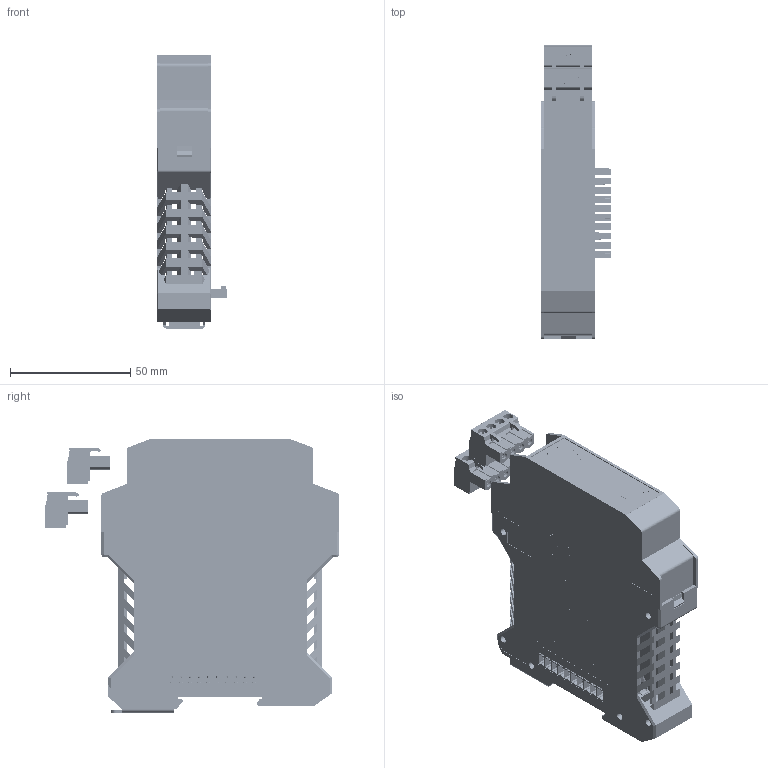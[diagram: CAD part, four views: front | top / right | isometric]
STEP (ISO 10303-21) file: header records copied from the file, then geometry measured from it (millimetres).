
FILE_DESCRIPTION(('STEP AP203'), '1');
FILE_NAME('鍛鍧 BCE-3_', '', ('UNSPECIFIED'), ('UNSPECIFIED'), 'ASCON STEP Converter 1.3', 'ASCON Math Kernel', '');
FILE_SCHEMA(('CONFIG_CONTROL_DESIGN'));
Length unit declared in the file: millimetre
Products named in the file (17): ME_22.5_UTR_H_BUS_10_H.Select__00496319; ME_Verriegelungshaken_H.Select__00446697; ME_22.5_UTL_H_BUS_10_H.Select__00496310; ME_BUS_22.5_MC_10-ST_H.Select__00493208; ME_BUS_FE-CONTACT_H.Select__00437355; Fussriegel_17.5_L30_H.Select__00315466; ME_22_5_OT-MSTBO_H.Select__00273265; MSTBO_2_5_4-G1L_H.Select__00364411; ч蜱齁罻; ME_B-22.5_MSTBO_H.Select__00296524; MSTBT_2.5-4-ST
Assembly tree (20 placements, depth 5):
  (unnamed)
    (unnamed)
      (unnamed)
        (unnamed)
          ME_22.5_UTR_H_BUS_10_H.Select__00496319
          ME_Verriegelungshaken_H.Select__00446697  x2
          ME_22.5_UTL_H_BUS_10_H.Select__00496310
          ME_BUS_22.5_MC_10-ST_H.Select__00493208
          ME_BUS_FE-CONTACT_H.Select__00437355
          Fussriegel_17.5_L30_H.Select__00315466
      (unnamed)
        ME_22_5_OT-MSTBO_H.Select__00273265
        MSTBO_2_5_4-G1L_H.Select__00364411  x2
        ч蜱齁罻  x2
          ME_B-22.5_MSTBO_H.Select__00296524
    MSTBT_2.5-4-ST  x2
      MSTBT_2.5-4-ST
Bounding box: 29.1 x 122.45 x 113.6 mm (x, y, z)
Volume: 67705.9 mm3; surface area: 94383.5 mm2
Topology: 17 solids, 17 shells, 12417 faces, 35128 edges, 23307 vertices
Faces by surface type: plane 7025, cylinder 5092, extrusion 278, cone 22
Full cylindrical faces by diameter (mm): 0.813 x3, 0.853 x3, 1.353 x8, 1.4 x16, 1.6 x20, 2 x6, 2.1 x3, 2.8 x16, 3 x12, 3.783 x8, 4 x8
Entity records: 466340 total; most frequent: CARTESIAN_POINT 69521, ORIENTED_EDGE 64476, DIRECTION 64171, EDGE_CURVE 32238, VECTOR 21995, LINE 21754, VERTEX_POINT 21457, AXIS2_PLACEMENT_3D 21088
